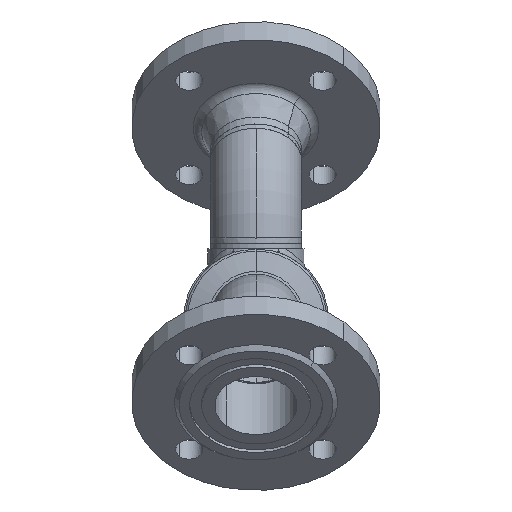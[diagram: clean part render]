
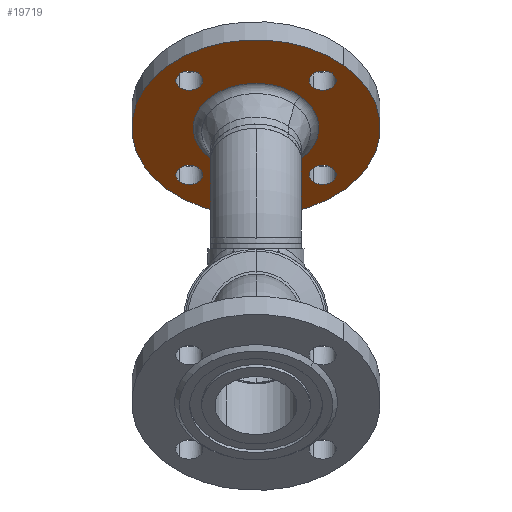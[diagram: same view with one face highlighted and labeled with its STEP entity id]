
A CAD part, front view. The second image highlights one B-rep face of the part: STEP entity #19719.
In plain terms, the highlighted planar face has unit normal (0, -0.707, -0.707) as drawn and (0, 1, 0) by its records, which use the part's own axes.
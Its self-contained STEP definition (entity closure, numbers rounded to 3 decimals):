
#49159 = EDGE_CURVE ( 'NONE', #19063, #18511, #40312, .T. ) ;
#49289 = EDGE_CURVE ( 'NONE', #41031, #6325, #40365, .T. ) ;
#16705 = ORIENTED_EDGE ( 'NONE', *, *, #49159, .F. ) ;
#400 = ORIENTED_EDGE ( 'NONE', *, *, #55177, .F. ) ;
#49880 = VERTEX_POINT ( 'NONE', #40575 ) ;
#33717 = EDGE_CURVE ( 'NONE', #30508, #22859, #41339, .T. ) ;
#17786 = CARTESIAN_POINT ( 'NONE',  ( 9., 20., 62.5 ) ) ;
#50610 = ORIENTED_EDGE ( 'NONE', *, *, #49289, .F. ) ;
#18105 = ORIENTED_EDGE ( 'NONE', *, *, #20677, .F. ) ;
#18511 = VERTEX_POINT ( 'NONE', #36442 ) ;
#2260 = EDGE_LOOP ( 'NONE', ( #400, #53322 ) ) ;
#18677 = CIRCLE ( 'NONE', #18678, 9. ) ;
#18678 = AXIS2_PLACEMENT_3D ( 'NONE', #18679, #18680, #18681 ) ;
#18679 = CARTESIAN_POINT ( 'NONE',  ( 62.5, 20., 0. ) ) ;
#18680 = DIRECTION ( 'NONE',  ( 0., 1., 0. ) ) ;
#18681 = DIRECTION ( 'NONE',  ( -1., 0., 0. ) ) ;
#35388 = VERTEX_POINT ( 'NONE', #17786 ) ;
#19063 = VERTEX_POINT ( 'NONE', #36837 ) ;
#3126 = ORIENTED_EDGE ( 'NONE', *, *, #33717, .F. ) ;
#52458 = EDGE_LOOP ( 'NONE', ( #50610, #47434 ) ) ;
#19719 = ADVANCED_FACE ( 'NONE', ( #37657, #37694, #37695, #37696, #37697, #37698 ), #37699, .F. ) ;
#36141 = EDGE_CURVE ( 'NONE', #6325, #41031, #18677, .T. ) ;
#36442 = CARTESIAN_POINT ( 'NONE',  ( -41.687, 20., 0. ) ) ;
#20094 = CIRCLE ( 'NONE', #20095, 82.5 ) ;
#20095 = AXIS2_PLACEMENT_3D ( 'NONE', #20096, #20097, #20098 ) ;
#20096 = CARTESIAN_POINT ( 'NONE',  ( 0., 20., 0. ) ) ;
#20097 = DIRECTION ( 'NONE',  ( 0., 1., 0. ) ) ;
#20098 = DIRECTION ( 'NONE',  ( -1., 0., 0. ) ) ;
#36691 = CARTESIAN_POINT ( 'NONE',  ( -82.5, 20., 0. ) ) ;
#36837 = CARTESIAN_POINT ( 'NONE',  ( 41.687, 20., 0. ) ) ;
#53322 = ORIENTED_EDGE ( 'NONE', *, *, #27335, .F. ) ;
#20677 = EDGE_CURVE ( 'NONE', #18511, #19063, #39159, .T. ) ;
#4589 = EDGE_CURVE ( 'NONE', #45902, #49880, #26236, .T. ) ;
#37351 = CARTESIAN_POINT ( 'NONE',  ( -9., 20., -62.5 ) ) ;
#37657 = FACE_BOUND ( 'NONE', #7390, .T. ) ;
#37694 = FACE_BOUND ( 'NONE', #26026, .T. ) ;
#37695 = FACE_BOUND ( 'NONE', #2260, .T. ) ;
#37696 = FACE_BOUND ( 'NONE', #52458, .T. ) ;
#37697 = FACE_BOUND ( 'NONE', #46567, .T. ) ;
#37698 = FACE_OUTER_BOUND ( 'NONE', #16052, .T. ) ;
#37699 = PLANE ( 'NONE',  #37700 ) ;
#37700 = AXIS2_PLACEMENT_3D ( 'NONE', #37701, #37702, #37703 ) ;
#37701 = CARTESIAN_POINT ( 'NONE',  ( 82.5, 20., 0. ) ) ;
#37702 = DIRECTION ( 'NONE',  ( 0., -1., 0. ) ) ;
#37703 = DIRECTION ( 'NONE',  ( 1., 0., 0. ) ) ;
#4985 = EDGE_CURVE ( 'NONE', #22859, #30508, #26537, .T. ) ;
#38565 = CIRCLE ( 'NONE', #38566, 9. ) ;
#38566 = AXIS2_PLACEMENT_3D ( 'NONE', #38567, #38568, #38569 ) ;
#38567 = CARTESIAN_POINT ( 'NONE',  ( 0., 20., -62.5 ) ) ;
#38568 = DIRECTION ( 'NONE',  ( 0., 1., 0. ) ) ;
#38569 = DIRECTION ( 'NONE',  ( 0., 0., 1. ) ) ;
#5919 = ORIENTED_EDGE ( 'NONE', *, *, #4589, .F. ) ;
#55177 = EDGE_CURVE ( 'NONE', #26832, #35388, #39742, .T. ) ;
#6267 = ORIENTED_EDGE ( 'NONE', *, *, #4985, .F. ) ;
#6325 = VERTEX_POINT ( 'NONE', #27587 ) ;
#39159 = CIRCLE ( 'NONE', #39160, 41.687 ) ;
#39160 = AXIS2_PLACEMENT_3D ( 'NONE', #39161, #39162, #39163 ) ;
#39161 = CARTESIAN_POINT ( 'NONE',  ( 0., 20., 0. ) ) ;
#39162 = DIRECTION ( 'NONE',  ( 0., 1., 0. ) ) ;
#39163 = DIRECTION ( 'NONE',  ( -1., 0., 0. ) ) ;
#22859 = VERTEX_POINT ( 'NONE', #40770 ) ;
#39742 = CIRCLE ( 'NONE', #39743, 9. ) ;
#39743 = AXIS2_PLACEMENT_3D ( 'NONE', #39744, #39745, #39746 ) ;
#39744 = CARTESIAN_POINT ( 'NONE',  ( 0., 20., 62.5 ) ) ;
#39745 = DIRECTION ( 'NONE',  ( 0., 1., 0. ) ) ;
#39746 = DIRECTION ( 'NONE',  ( 0., 0., -1. ) ) ;
#7390 = EDGE_LOOP ( 'NONE', ( #5919, #31914 ) ) ;
#7397 = CARTESIAN_POINT ( 'NONE',  ( 82.5, 20., 0. ) ) ;
#40312 = CIRCLE ( 'NONE', #40313, 41.687 ) ;
#40313 = AXIS2_PLACEMENT_3D ( 'NONE', #40314, #40315, #40316 ) ;
#40314 = CARTESIAN_POINT ( 'NONE',  ( 0., 20., 0. ) ) ;
#40315 = DIRECTION ( 'NONE',  ( 0., 1., 0. ) ) ;
#40316 = DIRECTION ( 'NONE',  ( -1., 0., 0. ) ) ;
#40342 = CARTESIAN_POINT ( 'NONE',  ( -9., 20., 62.5 ) ) ;
#40365 = CIRCLE ( 'NONE', #40366, 9. ) ;
#40366 = AXIS2_PLACEMENT_3D ( 'NONE', #40367, #40368, #40369 ) ;
#40367 = CARTESIAN_POINT ( 'NONE',  ( 62.5, 20., 0. ) ) ;
#40368 = DIRECTION ( 'NONE',  ( 0., 1., 0. ) ) ;
#40369 = DIRECTION ( 'NONE',  ( -1., 0., 0. ) ) ;
#40575 = CARTESIAN_POINT ( 'NONE',  ( 9., 20., -62.5 ) ) ;
#40770 = CARTESIAN_POINT ( 'NONE',  ( -71.5, 20., 0. ) ) ;
#41031 = VERTEX_POINT ( 'NONE', #42909 ) ;
#41339 = CIRCLE ( 'NONE', #41340, 9. ) ;
#41340 = AXIS2_PLACEMENT_3D ( 'NONE', #41341, #41342, #41343 ) ;
#41341 = CARTESIAN_POINT ( 'NONE',  ( -62.5, 20., 0. ) ) ;
#41342 = DIRECTION ( 'NONE',  ( 0., 1., 0. ) ) ;
#41343 = DIRECTION ( 'NONE',  ( 1., 0., 0. ) ) ;
#26026 = EDGE_LOOP ( 'NONE', ( #6267, #3126 ) ) ;
#26135 = CARTESIAN_POINT ( 'NONE',  ( -53.5, 20., 0. ) ) ;
#26236 = CIRCLE ( 'NONE', #26237, 9. ) ;
#26237 = AXIS2_PLACEMENT_3D ( 'NONE', #26238, #26239, #26240 ) ;
#26238 = CARTESIAN_POINT ( 'NONE',  ( 0., 20., -62.5 ) ) ;
#26239 = DIRECTION ( 'NONE',  ( 0., 1., 0. ) ) ;
#26240 = DIRECTION ( 'NONE',  ( 0., 0., 1. ) ) ;
#42803 = CIRCLE ( 'NONE', #42804, 82.5 ) ;
#42804 = AXIS2_PLACEMENT_3D ( 'NONE', #42805, #42806, #42807 ) ;
#42805 = CARTESIAN_POINT ( 'NONE',  ( 0., 20., 0. ) ) ;
#42806 = DIRECTION ( 'NONE',  ( 0., 1., 0. ) ) ;
#42807 = DIRECTION ( 'NONE',  ( -1., 0., 0. ) ) ;
#42909 = CARTESIAN_POINT ( 'NONE',  ( 53.5, 20., 0. ) ) ;
#26537 = CIRCLE ( 'NONE', #26538, 9. ) ;
#26538 = AXIS2_PLACEMENT_3D ( 'NONE', #26539, #26540, #26576 ) ;
#26539 = CARTESIAN_POINT ( 'NONE',  ( -62.5, 20., 0. ) ) ;
#26540 = DIRECTION ( 'NONE',  ( 0., 1., 0. ) ) ;
#26576 = DIRECTION ( 'NONE',  ( 1., 0., 0. ) ) ;
#26832 = VERTEX_POINT ( 'NONE', #40342 ) ;
#43401 = CIRCLE ( 'NONE', #43402, 9. ) ;
#43402 = AXIS2_PLACEMENT_3D ( 'NONE', #43403, #43404, #43454 ) ;
#43403 = CARTESIAN_POINT ( 'NONE',  ( 0., 20., 62.5 ) ) ;
#43404 = DIRECTION ( 'NONE',  ( 0., 1., 0. ) ) ;
#43454 = DIRECTION ( 'NONE',  ( 0., 0., -1. ) ) ;
#27335 = EDGE_CURVE ( 'NONE', #35388, #26832, #43401, .T. ) ;
#27587 = CARTESIAN_POINT ( 'NONE',  ( 71.5, 20., 0. ) ) ;
#28503 = VERTEX_POINT ( 'NONE', #7397 ) ;
#12199 = EDGE_CURVE ( 'NONE', #28503, #45169, #20094, .T. ) ;
#45169 = VERTEX_POINT ( 'NONE', #36691 ) ;
#45902 = VERTEX_POINT ( 'NONE', #37351 ) ;
#13214 = ORIENTED_EDGE ( 'NONE', *, *, #12199, .T. ) ;
#46567 = EDGE_LOOP ( 'NONE', ( #18105, #16705 ) ) ;
#46702 = EDGE_CURVE ( 'NONE', #49880, #45902, #38565, .T. ) ;
#30508 = VERTEX_POINT ( 'NONE', #26135 ) ;
#14631 = ORIENTED_EDGE ( 'NONE', *, *, #15041, .T. ) ;
#47434 = ORIENTED_EDGE ( 'NONE', *, *, #36141, .F. ) ;
#15041 = EDGE_CURVE ( 'NONE', #45169, #28503, #42803, .T. ) ;
#31914 = ORIENTED_EDGE ( 'NONE', *, *, #46702, .F. ) ;
#16052 = EDGE_LOOP ( 'NONE', ( #14631, #13214 ) ) ;
